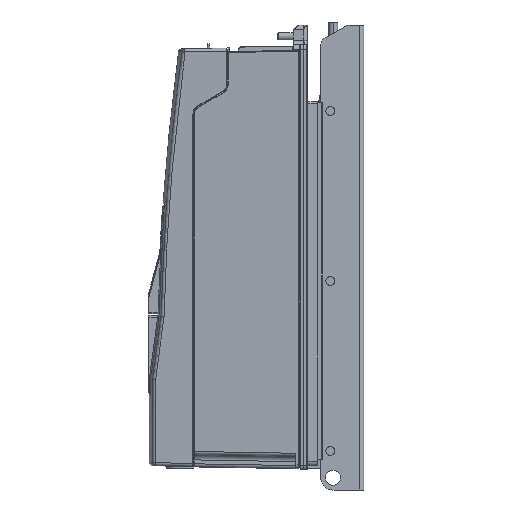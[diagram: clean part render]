
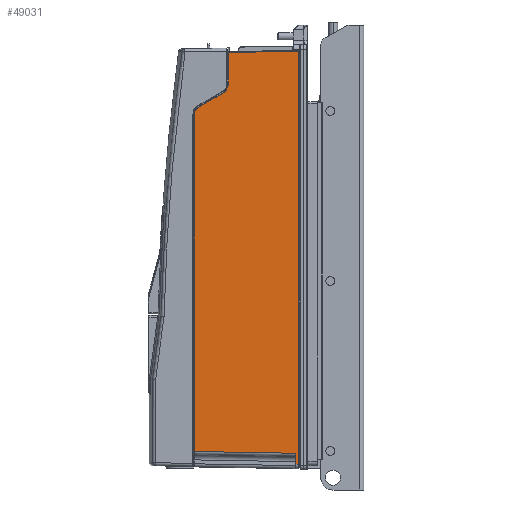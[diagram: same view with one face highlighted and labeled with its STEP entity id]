
A CAD part, left-side view. The second image highlights one B-rep face of the part: STEP entity #49031.
In plain terms, the highlighted planar face has unit normal (-1, 0.018, 0) as drawn and (1, 0.018, 0) by its records, which use the part's own axes.
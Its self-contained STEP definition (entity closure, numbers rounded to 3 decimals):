
#1667 = CARTESIAN_POINT ( 'NONE',  ( 121.154, 119.804, 71.213 ) ) ;
#2406 = ORIENTED_EDGE ( 'NONE', *, *, #92630, .T. ) ;
#4128 = CARTESIAN_POINT ( 'NONE',  ( 121.241, 114.901, 62.724 ) ) ;
#4428 = LINE ( 'NONE', #35340, #83748 ) ;
#6415 = VERTEX_POINT ( 'NONE', #53915 ) ;
#7134 = VERTEX_POINT ( 'NONE', #44606 ) ;
#7458 = VECTOR ( 'NONE', #85140, 1000. ) ;
#7986 = EDGE_CURVE ( 'NONE', #6415, #67219, #57862, .T. ) ;
#8748 = VECTOR ( 'NONE', #62594, 1000. ) ;
#8841 = LINE ( 'NONE', #9822, #51771 ) ;
#9433 = CARTESIAN_POINT ( 'NONE',  ( 121.154, 119.804, 471. ) ) ;
#9683 = LINE ( 'NONE', #71502, #92245 ) ;
#9822 = CARTESIAN_POINT ( 'NONE',  ( 121.15, 120., 37.726 ) ) ;
#11743 = ORIENTED_EDGE ( 'NONE', *, *, #97903, .T. ) ;
#14467 = CARTESIAN_POINT ( 'NONE',  ( 123.269, 1.704, 465.997 ) ) ;
#15640 = EDGE_CURVE ( 'NONE', #69041, #62426, #25022, .T. ) ;
#18583 = CARTESIAN_POINT ( 'NONE',  ( 121.834, 81.804, 41.46 ) ) ;
#18786 = LINE ( 'NONE', #65917, #61980 ) ;
#19198 = ORIENTED_EDGE ( 'NONE', *, *, #46015, .T. ) ;
#20060 = CARTESIAN_POINT ( 'NONE',  ( 121.801, 83.67, 44.693 ) ) ;
#20395 = VERTEX_POINT ( 'NONE', #61614 ) ;
#20576 = VERTEX_POINT ( 'NONE', #82664 ) ;
#21790 = CARTESIAN_POINT ( 'NONE',  ( 121.15, 120., 471. ) ) ;
#22282 =( BOUNDED_CURVE ( )  B_SPLINE_CURVE ( 3, ( #88018, #18583, #20060, #64210 ),
 .UNSPECIFIED., .F., .T. ) 
 B_SPLINE_CURVE_WITH_KNOTS ( ( 4, 4 ),
 ( 0., 1.047 ),
 .UNSPECIFIED. ) 
 CURVE ( )  GEOMETRIC_REPRESENTATION_ITEM ( )  RATIONAL_B_SPLINE_CURVE ( ( 1., 0.911, 0.911, 1. ) ) 
 REPRESENTATION_ITEM ( '' )  );
#22500 = CARTESIAN_POINT ( 'NONE',  ( 121.834, 81.804, 37.726 ) ) ;
#23265 = CARTESIAN_POINT ( 'NONE',  ( 123.212, 4.939, 453.502 ) ) ;
#24452 = CARTESIAN_POINT ( 'NONE',  ( 121.154, 119.804, 67.626 ) ) ;
#24532 = LINE ( 'NONE', #94012, #8748 ) ;
#25022 = LINE ( 'NONE', #78245, #30342 ) ;
#25494 = CARTESIAN_POINT ( 'NONE',  ( 123.21, 5.009, 454.037 ) ) ;
#26643 = CARTESIAN_POINT ( 'NONE',  ( 123.214, 4.804, 465.943 ) ) ;
#30342 = VECTOR ( 'NONE', #40210, 1000. ) ;
#30427 = FACE_OUTER_BOUND ( 'NONE', #34510, .T. ) ;
#30929 = DIRECTION ( 'NONE',  ( -1., -0.018, 0. ) ) ;
#31964 = VERTEX_POINT ( 'NONE', #22500 ) ;
#32874 = ORIENTED_EDGE ( 'NONE', *, *, #55705, .T. ) ;
#34510 = EDGE_LOOP ( 'NONE', ( #51501, #72203, #69730, #2406, #56403, #11743, #32874, #92394, #61143, #19198, #77268, #69269 ) ) ;
#35178 = EDGE_CURVE ( 'NONE', #67859, #69041, #4428, .T. ) ;
#35340 = CARTESIAN_POINT ( 'NONE',  ( 123.214, 4.804, 471. ) ) ;
#39658 = CARTESIAN_POINT ( 'NONE',  ( 121.241, 114.904, 62.726 ) ) ;
#40210 = DIRECTION ( 'NONE',  ( 0.018, -1., 0.017 ) ) ;
#40260 = VERTEX_POINT ( 'NONE', #54100 ) ;
#40675 = CARTESIAN_POINT ( 'NONE',  ( 123.214, 4.804, 454.869 ) ) ;
#41109 = DIRECTION ( 'NONE',  ( -0.016, 0.866, 0.5 ) ) ;
#41700 = CARTESIAN_POINT ( 'NONE',  ( 123.214, 4.804, 455.156 ) ) ;
#42064 = DIRECTION ( 'NONE',  ( 0., 0., -1. ) ) ;
#42417 = DIRECTION ( 'NONE',  ( 0., 0., 1. ) ) ;
#44606 = CARTESIAN_POINT ( 'NONE',  ( 123.207, 5.196, 453.497 ) ) ;
#44681 = CARTESIAN_POINT ( 'NONE',  ( 121.241, 114.904, 62.726 ) ) ;
#45845 = EDGE_CURVE ( 'NONE', #31964, #6415, #22282, .T. ) ;
#46015 = EDGE_CURVE ( 'NONE', #62426, #56095, #24532, .T. ) ;
#48838 = CARTESIAN_POINT ( 'NONE',  ( 123.209, 5.102, 453.767 ) ) ;
#48956 = VECTOR ( 'NONE', #41109, 1000. ) ;
#49031 = ADVANCED_FACE ( 'NONE', ( #30427 ), #91280, .F. ) ;
#50207 = CARTESIAN_POINT ( 'NONE',  ( 123.269, 1.704, -0.542 ) ) ;
#50817 = CARTESIAN_POINT ( 'NONE',  ( 123.213, 4.86, 454.589 ) ) ;
#51501 = ORIENTED_EDGE ( 'NONE', *, *, #84580, .F. ) ;
#51771 = VECTOR ( 'NONE', #54463, 1000. ) ;
#53915 = CARTESIAN_POINT ( 'NONE',  ( 121.743, 86.904, 46.56 ) ) ;
#54100 = CARTESIAN_POINT ( 'NONE',  ( 121.84, 81.5, 0.99 ) ) ;
#54217 = LINE ( 'NONE', #23265, #7458 ) ;
#54463 = DIRECTION ( 'NONE',  ( 0.018, -1., 0. ) ) ;
#55705 = EDGE_CURVE ( 'NONE', #7134, #67859, #57836, .T. ) ;
#56095 = VERTEX_POINT ( 'NONE', #50207 ) ;
#56403 = ORIENTED_EDGE ( 'NONE', *, *, #69091, .T. ) ;
#57836 = B_SPLINE_CURVE_WITH_KNOTS ( 'NONE', 3,
 ( #73624, #48838, #25494, #50817, #40675, #41700 ),
 .UNSPECIFIED., .F., .F.,
 ( 4, 2, 4 ),
 ( 0., 0.001, 0.002 ),
 .UNSPECIFIED. ) ;
#57862 = LINE ( 'NONE', #4128, #48956 ) ;
#60563 = EDGE_CURVE ( 'NONE', #56095, #40260, #9683, .T. ) ;
#61143 = ORIENTED_EDGE ( 'NONE', *, *, #15640, .T. ) ;
#61345 = DIRECTION ( 'NONE',  ( 0.018, -1., 0. ) ) ;
#61614 = CARTESIAN_POINT ( 'NONE',  ( 121.154, 119.804, 451.497 ) ) ;
#61980 = VECTOR ( 'NONE', #42064, 1000. ) ;
#62426 = VERTEX_POINT ( 'NONE', #14467 ) ;
#62594 = DIRECTION ( 'NONE',  ( 0., 0., -1. ) ) ;
#63166 = DIRECTION ( 'NONE',  ( 0., 0., 1. ) ) ;
#64210 = CARTESIAN_POINT ( 'NONE',  ( 121.743, 86.904, 46.56 ) ) ;
#65917 = CARTESIAN_POINT ( 'NONE',  ( 121.84, 81.5, 471. ) ) ;
#65924 = DIRECTION ( 'NONE',  ( -0.018, 1., 0.019 ) ) ;
#67219 = VERTEX_POINT ( 'NONE', #44681 ) ;
#67778 = CARTESIAN_POINT ( 'NONE',  ( 123.214, 4.804, 455.156 ) ) ;
#67859 = VERTEX_POINT ( 'NONE', #67778 ) ;
#68969 = VERTEX_POINT ( 'NONE', #73759 ) ;
#69041 = VERTEX_POINT ( 'NONE', #26643 ) ;
#69091 = EDGE_CURVE ( 'NONE', #20576, #20395, #70263, .T. ) ;
#69269 = ORIENTED_EDGE ( 'NONE', *, *, #90469, .F. ) ;
#69730 = ORIENTED_EDGE ( 'NONE', *, *, #7986, .T. ) ;
#70263 = LINE ( 'NONE', #9433, #85457 ) ;
#71502 = CARTESIAN_POINT ( 'NONE',  ( 120.989, 129.004, 1.902 ) ) ;
#72203 = ORIENTED_EDGE ( 'NONE', *, *, #45845, .T. ) ;
#73624 = CARTESIAN_POINT ( 'NONE',  ( 123.207, 5.196, 453.497 ) ) ;
#73759 = CARTESIAN_POINT ( 'NONE',  ( 121.84, 81.5, 37.726 ) ) ;
#77268 = ORIENTED_EDGE ( 'NONE', *, *, #60563, .T. ) ;
#78245 = CARTESIAN_POINT ( 'NONE',  ( 123.275, 1.413, 466.002 ) ) ;
#78516 =( BOUNDED_CURVE ( )  B_SPLINE_CURVE ( 3, ( #39658, #93937, #24452, #1667 ),
 .UNSPECIFIED., .F., .T. ) 
 B_SPLINE_CURVE_WITH_KNOTS ( ( 4, 4 ),
 ( 2.094, 3.142 ),
 .UNSPECIFIED. ) 
 CURVE ( )  GEOMETRIC_REPRESENTATION_ITEM ( )  RATIONAL_B_SPLINE_CURVE ( ( 1., 0.911, 0.911, 1. ) ) 
 REPRESENTATION_ITEM ( '' )  );
#82664 = CARTESIAN_POINT ( 'NONE',  ( 121.154, 119.804, 71.213 ) ) ;
#83748 = VECTOR ( 'NONE', #42417, 1000. ) ;
#84580 = EDGE_CURVE ( 'NONE', #31964, #68969, #8841, .T. ) ;
#84748 = AXIS2_PLACEMENT_3D ( 'NONE', #21790, #30929, #61345 ) ;
#85140 = DIRECTION ( 'NONE',  ( 0.018, -1., 0.017 ) ) ;
#85457 = VECTOR ( 'NONE', #63166, 1000. ) ;
#88018 = CARTESIAN_POINT ( 'NONE',  ( 121.834, 81.804, 37.726 ) ) ;
#90469 = EDGE_CURVE ( 'NONE', #68969, #40260, #18786, .T. ) ;
#91280 = PLANE ( 'NONE',  #84748 ) ;
#92245 = VECTOR ( 'NONE', #65924, 1000. ) ;
#92394 = ORIENTED_EDGE ( 'NONE', *, *, #35178, .T. ) ;
#92630 = EDGE_CURVE ( 'NONE', #67219, #20576, #78516, .T. ) ;
#93937 = CARTESIAN_POINT ( 'NONE',  ( 121.186, 118.01, 64.519 ) ) ;
#94012 = CARTESIAN_POINT ( 'NONE',  ( 123.269, 1.704, 471. ) ) ;
#97903 = EDGE_CURVE ( 'NONE', #20395, #7134, #54217, .T. ) ;
